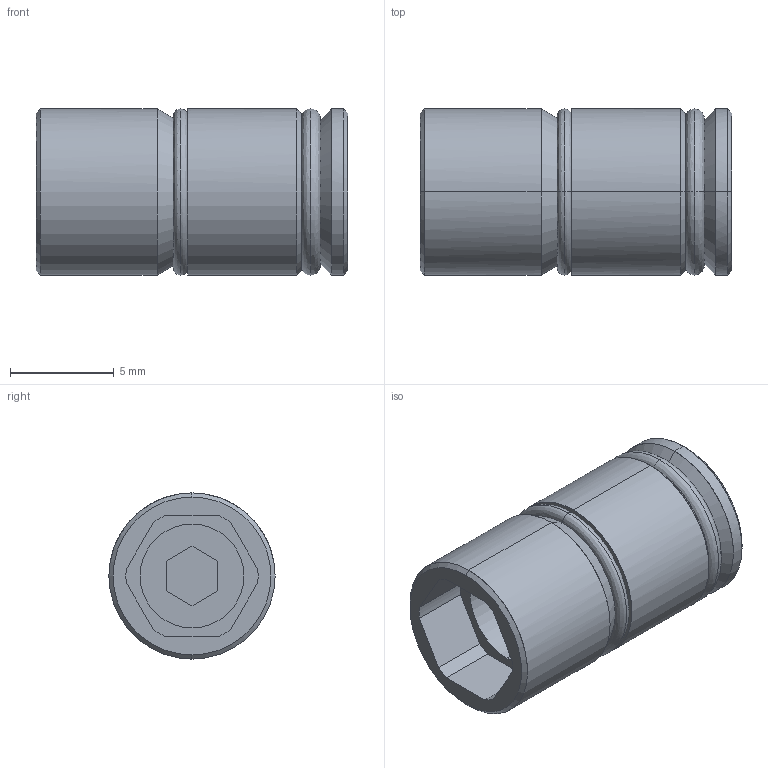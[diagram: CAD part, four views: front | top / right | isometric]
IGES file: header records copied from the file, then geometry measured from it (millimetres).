
Start section: START RECORD GO HERE.
Global section: file name: TRI-8L.igs; native system: DASSAULT SYSTEMES CATIA V5 R20 - www.3ds.com; preprocessor: CATIA Version 5 Release 20 ; author: Utente; organization: NB04-ASUS; date: 20210222.201257; units: millimetre
Bounding box: 15 x 8 x 8 mm (x, y, z)
Surface area: 641.9 mm2 (no closed solid volume)
Topology: 0 solids, 0 shells, 51 faces, 288 edges, 288 vertices
Faces by surface type: revolution 32, plane 19
